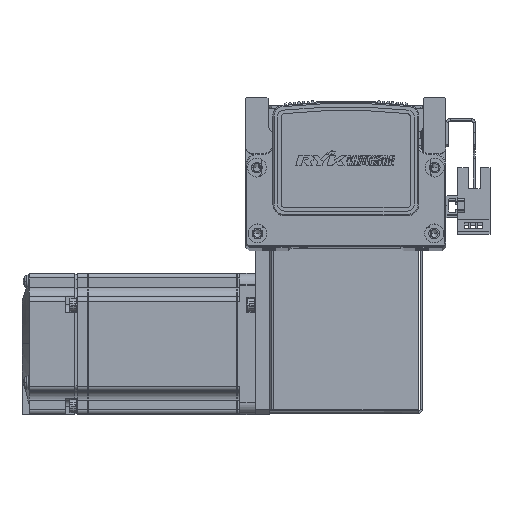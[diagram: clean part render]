
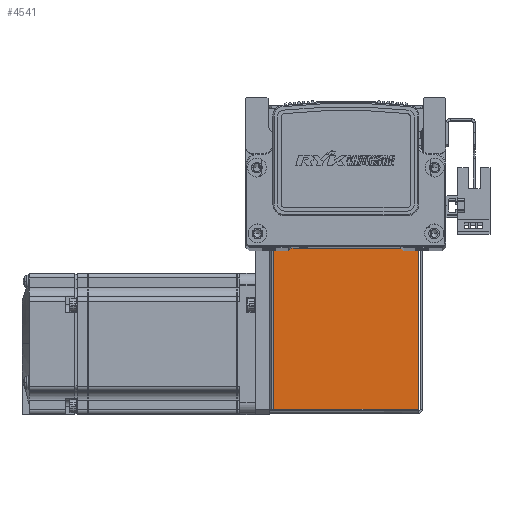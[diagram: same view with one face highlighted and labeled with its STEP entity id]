
A CAD part, top view. The second image highlights one B-rep face of the part: STEP entity #4541.
In plain terms, the highlighted planar face has unit normal (0, 0, 1) as drawn and (0, 0, -1) by its records, which use the part's own axes.
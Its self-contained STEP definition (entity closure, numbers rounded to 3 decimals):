
#4541 = ADVANCED_FACE ( 'NONE', ( #63534 ), #76232, .F. ) ;
#29940 = EDGE_CURVE ( 'NONE', #30985, #30953, #41929, .T. ) ;
#29981 = EDGE_CURVE ( 'NONE', #30959, #30986, #41875, .T. ) ;
#29998 = EDGE_CURVE ( 'NONE', #30985, #30986, #41868, .T. ) ;
#30043 = EDGE_CURVE ( 'NONE', #30953, #30959, #41960, .T. ) ;
#30464 = AXIS2_PLACEMENT_3D ( 'NONE', #76278, #76276, #76292 ) ;
#30953 = VERTEX_POINT ( 'NONE', #37249 ) ;
#30959 = VERTEX_POINT ( 'NONE', #37298 ) ;
#30985 = VERTEX_POINT ( 'NONE', #37309 ) ;
#30986 = VERTEX_POINT ( 'NONE', #37305 ) ;
#37249 = CARTESIAN_POINT ( 'NONE',  ( -30.793, 72.5, -35. ) ) ;
#37298 = CARTESIAN_POINT ( 'NONE',  ( 30.763, 72.5, -35. ) ) ;
#37305 = CARTESIAN_POINT ( 'NONE',  ( 30.763, 0.737, -35. ) ) ;
#37309 = CARTESIAN_POINT ( 'NONE',  ( -30.793, 0.737, -35. ) ) ;
#41868 = LINE ( 'NONE', #45047, #41904 ) ;
#41875 = LINE ( 'NONE', #45012, #41897 ) ;
#41897 = VECTOR ( 'NONE', #44914, 1000. ) ;
#41898 = VECTOR ( 'NONE', #44698, 1000. ) ;
#41904 = VECTOR ( 'NONE', #45042, 1000. ) ;
#41929 = LINE ( 'NONE', #44692, #41898 ) ;
#41960 = LINE ( 'NONE', #53292, #41977 ) ;
#41977 = VECTOR ( 'NONE', #53276, 1000. ) ;
#44692 = CARTESIAN_POINT ( 'NONE',  ( -30.793, 0., -35. ) ) ;
#44698 = DIRECTION ( 'NONE',  ( 0., 1., 0. ) ) ;
#44914 = DIRECTION ( 'NONE',  ( 0., -1., 0. ) ) ;
#45012 = CARTESIAN_POINT ( 'NONE',  ( 30.763, 72.5, -35. ) ) ;
#45042 = DIRECTION ( 'NONE',  ( 1., 0., 0. ) ) ;
#45047 = CARTESIAN_POINT ( 'NONE',  ( 32.5, 0.737, -35. ) ) ;
#46650 = ORIENTED_EDGE ( 'NONE', *, *, #29940, .T. ) ;
#46652 = ORIENTED_EDGE ( 'NONE', *, *, #30043, .T. ) ;
#46685 = ORIENTED_EDGE ( 'NONE', *, *, #29998, .F. ) ;
#46702 = ORIENTED_EDGE ( 'NONE', *, *, #29981, .T. ) ;
#53276 = DIRECTION ( 'NONE',  ( 1., 0., 0. ) ) ;
#53292 = CARTESIAN_POINT ( 'NONE',  ( 0., 72.5, -35. ) ) ;
#63534 = FACE_OUTER_BOUND ( 'NONE', #77086, .T. ) ;
#76232 = PLANE ( 'NONE',  #30464 ) ;
#76276 = DIRECTION ( 'NONE',  ( 0., 0., 1. ) ) ;
#76278 = CARTESIAN_POINT ( 'NONE',  ( 0., 0., -35. ) ) ;
#76292 = DIRECTION ( 'NONE',  ( 0., -1., 0. ) ) ;
#77086 = EDGE_LOOP ( 'NONE', ( #46702, #46685, #46650, #46652 ) ) ;
